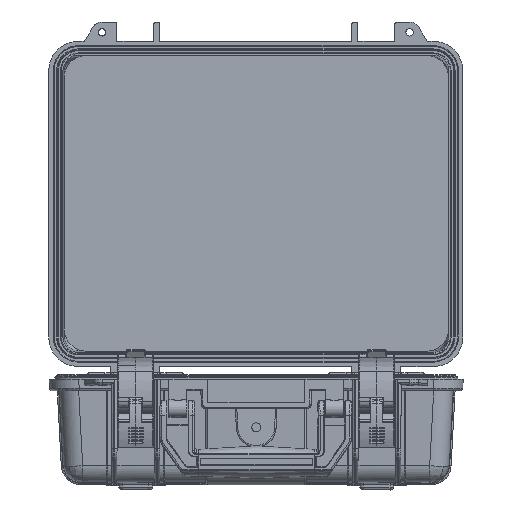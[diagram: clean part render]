
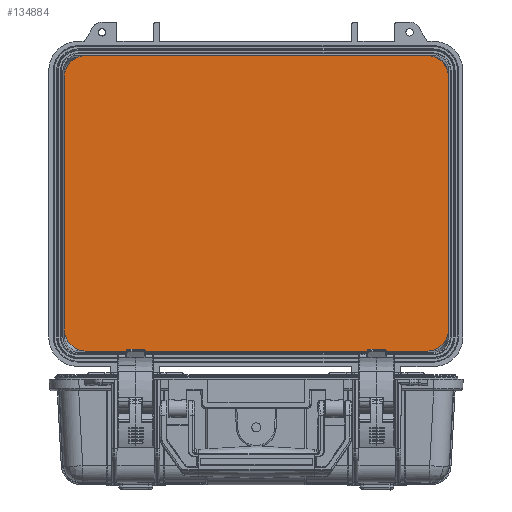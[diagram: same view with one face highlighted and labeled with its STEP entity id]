
A CAD part, front view. The second image highlights one B-rep face of the part: STEP entity #134884.
In plain terms, the highlighted planar face has unit normal (0, -1, 0) as drawn and (0, 0, 1) by its records, which use the part's own axes.
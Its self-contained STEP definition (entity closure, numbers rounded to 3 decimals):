
#134420 = EDGE_CURVE('',#134421,#134423,#134425,.T.);
#134421 = VERTEX_POINT('',#134422);
#134422 = CARTESIAN_POINT('',(-130.,85.,15.));
#134423 = VERTEX_POINT('',#134424);
#134424 = CARTESIAN_POINT('',(-130.,-85.,15.));
#134425 = LINE('',#134426,#134427);
#134426 = CARTESIAN_POINT('',(-130.,0.,15.));
#134427 = VECTOR('',#134428,1.);
#134428 = DIRECTION('',(0.,-1.,0.));
#134463 = VERTEX_POINT('',#134464);
#134464 = CARTESIAN_POINT('',(115.,-100.,15.));
#134470 = EDGE_CURVE('',#134471,#134463,#134473,.T.);
#134471 = VERTEX_POINT('',#134472);
#134472 = CARTESIAN_POINT('',(-115.,-100.,15.));
#134473 = LINE('',#134474,#134475);
#134474 = CARTESIAN_POINT('',(0.,-100.,15.));
#134475 = VECTOR('',#134476,1.);
#134476 = DIRECTION('',(1.,0.,0.));
#134500 = EDGE_CURVE('',#134501,#134503,#134505,.T.);
#134501 = VERTEX_POINT('',#134502);
#134502 = CARTESIAN_POINT('',(130.,-85.,15.));
#134503 = VERTEX_POINT('',#134504);
#134504 = CARTESIAN_POINT('',(130.,85.,15.));
#134505 = LINE('',#134506,#134507);
#134506 = CARTESIAN_POINT('',(130.,-85.,15.));
#134507 = VECTOR('',#134508,1.);
#134508 = DIRECTION('',(0.,1.,0.));
#134540 = EDGE_CURVE('',#134541,#134543,#134545,.T.);
#134541 = VERTEX_POINT('',#134542);
#134542 = CARTESIAN_POINT('',(115.,100.,15.));
#134543 = VERTEX_POINT('',#134544);
#134544 = CARTESIAN_POINT('',(-115.,100.,15.));
#134545 = LINE('',#134546,#134547);
#134546 = CARTESIAN_POINT('',(115.,100.,15.));
#134547 = VECTOR('',#134548,1.);
#134548 = DIRECTION('',(-1.,0.,0.));
#134581 = EDGE_CURVE('',#134463,#134501,#134582,.T.);
#134582 = CIRCLE('',#134583,15.);
#134583 = AXIS2_PLACEMENT_3D('',#134584,#134585,#134586);
#134584 = CARTESIAN_POINT('',(115.,-85.,15.));
#134585 = DIRECTION('',(0.,0.,1.));
#134586 = DIRECTION('',(1.,0.,-0.));
#134605 = EDGE_CURVE('',#134543,#134421,#134606,.T.);
#134606 = CIRCLE('',#134607,15.);
#134607 = AXIS2_PLACEMENT_3D('',#134608,#134609,#134610);
#134608 = CARTESIAN_POINT('',(-115.,85.,15.));
#134609 = DIRECTION('',(0.,0.,1.));
#134610 = DIRECTION('',(1.,0.,-0.));
#134629 = EDGE_CURVE('',#134503,#134541,#134630,.T.);
#134630 = CIRCLE('',#134631,15.);
#134631 = AXIS2_PLACEMENT_3D('',#134632,#134633,#134634);
#134632 = CARTESIAN_POINT('',(115.,85.,15.));
#134633 = DIRECTION('',(0.,0.,1.));
#134634 = DIRECTION('',(1.,0.,-0.));
#134653 = EDGE_CURVE('',#134423,#134471,#134654,.T.);
#134654 = CIRCLE('',#134655,15.);
#134655 = AXIS2_PLACEMENT_3D('',#134656,#134657,#134658);
#134656 = CARTESIAN_POINT('',(-115.,-85.,15.));
#134657 = DIRECTION('',(-0.,0.,1.));
#134658 = DIRECTION('',(1.,0.,0.));
#134884 = ADVANCED_FACE('',(#134885),#134895,.T.);
#134885 = FACE_BOUND('',#134886,.T.);
#134886 = EDGE_LOOP('',(#134887,#134888,#134889,#134890,#134891,#134892,
    #134893,#134894));
#134887 = ORIENTED_EDGE('',*,*,#134470,.T.);
#134888 = ORIENTED_EDGE('',*,*,#134581,.T.);
#134889 = ORIENTED_EDGE('',*,*,#134500,.T.);
#134890 = ORIENTED_EDGE('',*,*,#134629,.T.);
#134891 = ORIENTED_EDGE('',*,*,#134540,.T.);
#134892 = ORIENTED_EDGE('',*,*,#134605,.T.);
#134893 = ORIENTED_EDGE('',*,*,#134420,.T.);
#134894 = ORIENTED_EDGE('',*,*,#134653,.T.);
#134895 = PLANE('',#134896);
#134896 = AXIS2_PLACEMENT_3D('',#134897,#134898,#134899);
#134897 = CARTESIAN_POINT('',(0.,0.,15.));
#134898 = DIRECTION('',(-0.,0.,1.));
#134899 = DIRECTION('',(1.,0.,0.));
